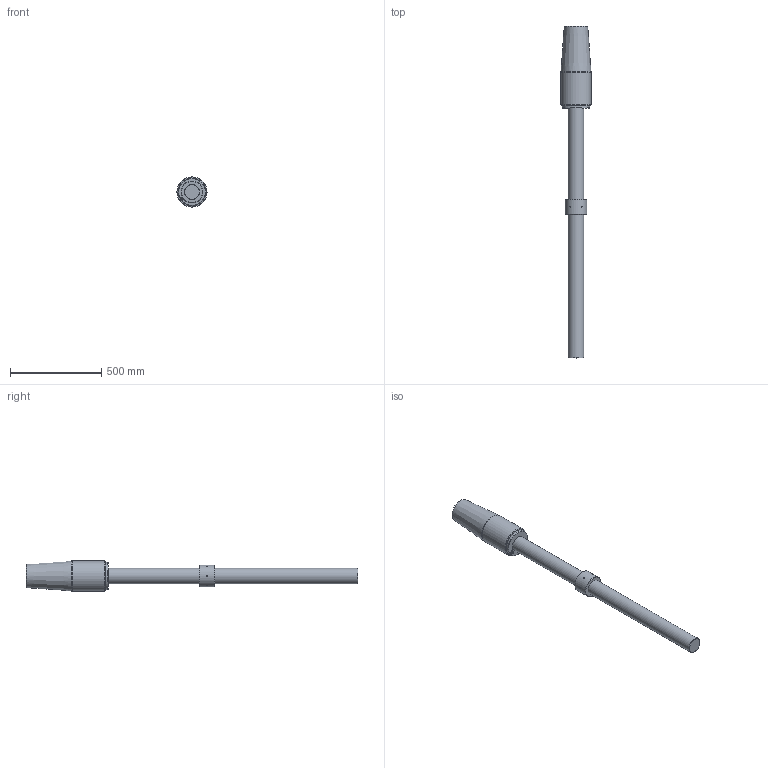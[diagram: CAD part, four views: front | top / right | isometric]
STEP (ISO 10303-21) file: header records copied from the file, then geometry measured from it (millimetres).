
FILE_DESCRIPTION(/* description */ (''),/* implementation_level */ '2;1');
FILE_NAME(/* name */ 'D:\Clienti\Redaelli (inventor)\CYB\STEP\Arrangement\CYB056 52 061 0.stp',/* time_stamp */ '2021-05-08T14:41:17+02:00',/* author */ ('fabri'),/* organization */ (''),/* preprocessor_version */ 'ST-DEVELOPER v16.13',/* originating_system */ 'Autodesk Inventor 2018',/* authorisation */ '');
FILE_SCHEMA (('AUTOMOTIVE_DESIGN { 1 0 10303 214 3 1 1 }'));
Length unit declared in the file: millimetre
Products named in the file (5): CYB056 52 061 0; RNT052 41 051 0_ROD; RNT052 41 051 0_ROD_1; CCY021-51-061-0_BUSH; CCY021-51-061-0
Assembly tree (4 placements, depth 2):
  CYB056 52 061 0
    RNT052 41 051 0_ROD
    RNT052 41 051 0_ROD_1
    CCY021-51-061-0_BUSH
    CCY021-51-061-0
Bounding box: 165 x 1822 x 165 mm (x, y, z)
Volume: 18254742.4 mm3; surface area: 833094.3 mm2
Topology: 4 solids, 4 shells, 735 faces, 1980 edges, 1315 vertices
Faces by surface type: bspline 412, plane 285, cylinder 18, cone 16, torus 4
Full cylindrical faces by diameter (mm): 7 x6, 8.376 x3, 78.505 x2, 85 x1, 86 x1, 115 x1, 120 x1, 125 x1, 150 x1, 165 x1
Entity records: 25132 total; most frequent: CARTESIAN_POINT 9561, ORIENTED_EDGE 3862, EDGE_CURVE 1931, DIRECTION 1803, VERTEX_POINT 1305, LINE 1053, VECTOR 1053, EDGE_LOOP 840
